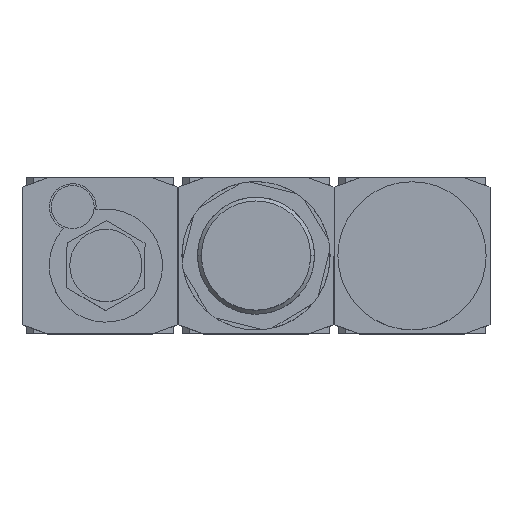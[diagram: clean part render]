
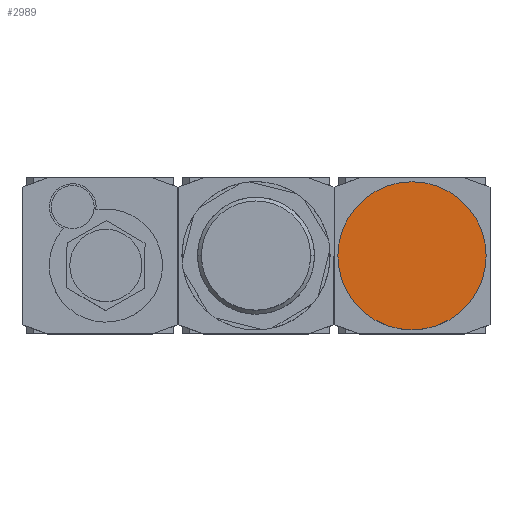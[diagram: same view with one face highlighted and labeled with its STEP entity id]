
A CAD part, top view. The second image highlights one B-rep face of the part: STEP entity #2989.
In plain terms, the highlighted planar face has unit normal (0, 0, 1).
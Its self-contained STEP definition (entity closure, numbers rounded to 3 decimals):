
#1258=CARTESIAN_POINT('',(-19.0,0.,38.0));
#1259=VERTEX_POINT('',#1258);
#1275=CARTESIAN_POINT('',(19.0,0.,38.0));
#1276=VERTEX_POINT('',#1275);
#1283=CARTESIAN_POINT('',(0.0,0.0,38.0));
#1284=DIRECTION('',(0.0,0.0,-1.0));
#1285=DIRECTION('',(-1.0,0.0,0.0));
#1286=AXIS2_PLACEMENT_3D('',#1283,#1284,#1285);
#1287=CIRCLE('',#1286,19.0);
#1288=EDGE_CURVE('',#1276,#1259,#1287,.T.);
#2974=CARTESIAN_POINT('',(0.0,0.0,38.0));
#2975=DIRECTION('',(0.0,0.0,-1.0));
#2976=DIRECTION('',(-1.0,0.0,0.0));
#2977=AXIS2_PLACEMENT_3D('',#2974,#2975,#2976);
#2978=PLANE('',#2977);
#2979=ORIENTED_EDGE('',*,*,#1288,.F.);
#2980=CARTESIAN_POINT('',(0.0,0.0,38.0));
#2981=DIRECTION('',(0.0,0.0,-1.0));
#2982=DIRECTION('',(-1.0,0.0,0.0));
#2983=AXIS2_PLACEMENT_3D('',#2980,#2981,#2982);
#2984=CIRCLE('',#2983,19.0);
#2985=EDGE_CURVE('',#1259,#1276,#2984,.T.);
#2986=ORIENTED_EDGE('',*,*,#2985,.F.);
#2987=EDGE_LOOP('',(#2979,#2986));
#2988=FACE_OUTER_BOUND('',#2987,.T.);
#2989=ADVANCED_FACE('',(#2988),#2978,.F.);
